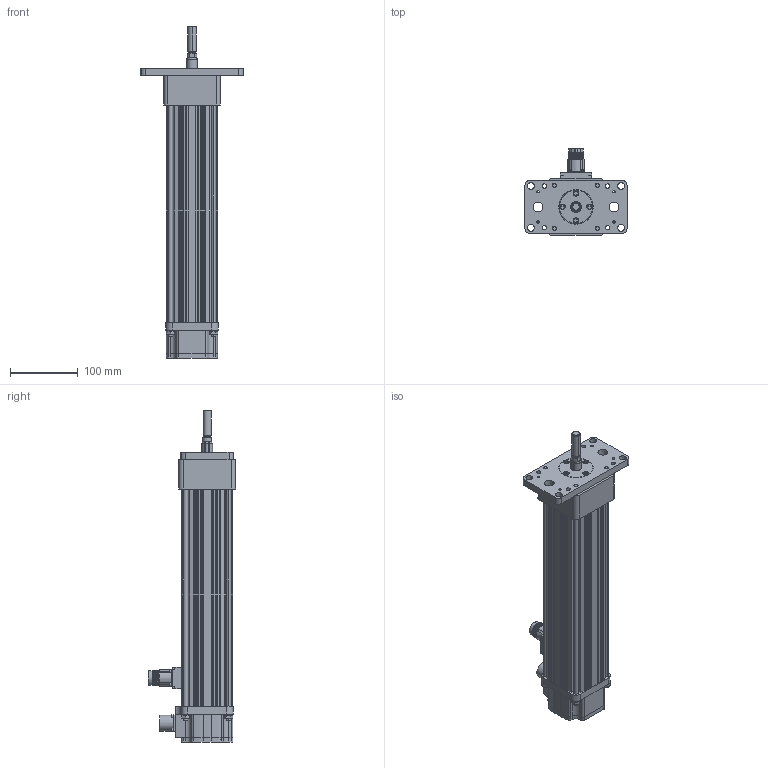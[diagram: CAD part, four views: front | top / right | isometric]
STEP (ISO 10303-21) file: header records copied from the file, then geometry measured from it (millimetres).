
FILE_DESCRIPTION (( 'STEP AP203' ), '1' );
FILE_NAME ('35865.STEP', '2008-03-06T20:18:16', ( ' ' ), ( '' ), 'SwSTEP 2.0', 'SolidWorks 2007', '' );
FILE_SCHEMA (( 'CONFIG_CONTROL_DESIGN' ));
Length unit declared in the file: inch
Products named in the file (25): 16450; 10514; 26428; 23380; 34461; 34462; 12367; 17310; 25863; 35865; 25698; 27403_17373; 27696; 23017; 16449; 24601; 13726; 11247; 11248; 25196; 35316; 22078; 20859; 10673; 10647
Assembly tree (44 placements, depth 2):
  35865
    12367  x8
    34461  x4
    16449
    25698
    13726  x4
    17310
    25863
    10647
    10514  x2
    11248  x4
    26428
    23017
    11247  x4
    27403_17373
    23380
    16450
    25196
    20859
    24601
    34462
    10673
    27696
    35316
    22078
Bounding box: 150.88 x 128.56 x 490.5 mm (x, y, z)
Volume: 1538913.5 mm3; surface area: 542777.2 mm2
Topology: 55 solids, 55 shells, 1479 faces, 3708 edges, 2348 vertices
Faces by surface type: cylinder 717, plane 412, cone 224, torus 60, sphere 56, bspline 10
Entity records: 43586 total; most frequent: CARTESIAN_POINT 11569, DIRECTION 6473, ORIENTED_EDGE 5668, EDGE_CURVE 2834, AXIS2_PLACEMENT_3D 2635, VERTEX_POINT 1834, EDGE_LOOP 1470, CIRCLE 1429
